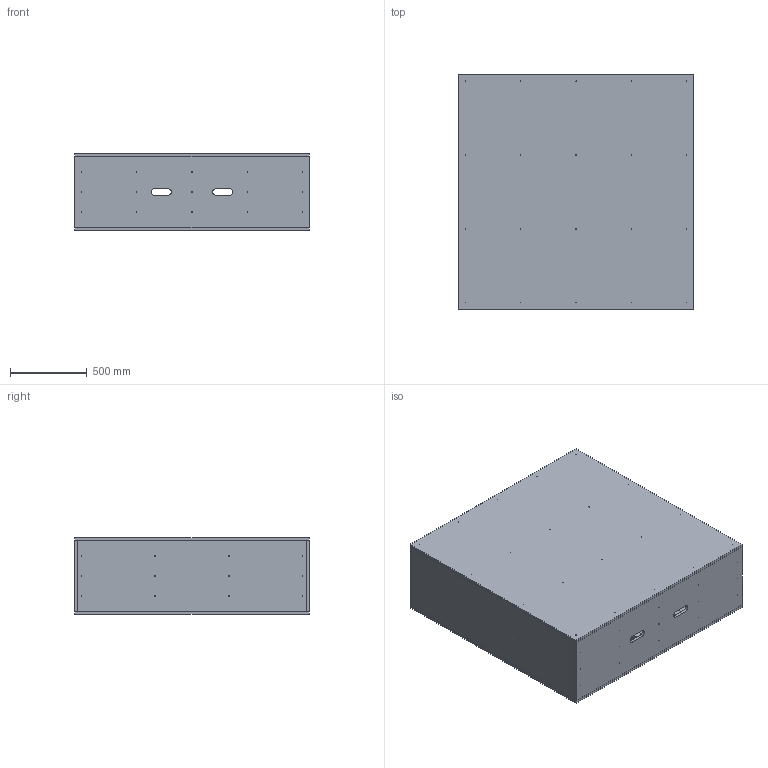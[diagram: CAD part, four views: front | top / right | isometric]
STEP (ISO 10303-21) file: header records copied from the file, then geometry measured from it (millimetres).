
FILE_DESCRIPTION(('Open CASCADE Model'),'2;1');
FILE_NAME('Open CASCADE Shape Model','2026-09-28T10:14:14',('Author'),( 'Open CASCADE'),'Open CASCADE STEP processor 7.9','Open CASCADE 7.9' ,'Unknown');
FILE_SCHEMA(('AUTOMOTIVE_DESIGN { 1 0 10303 214 1 1 1 1 }'));
Length unit declared in the file: millimetre
Products named in the file (45): box_500x1525x1525; bottom; top; front; back; end_left; end_right; post_0_0; post_0_1; post_0_2; post_0_3; post_1_0; post_1_1; post_1_2; post_1_3; post_2_0; post_2_1; post_2_2; post_2_3; post_3_0; post_3_1; post_3_2; post_3_3; post_4_0; post_4_1; post_4_2; post_4_3; cross_0_0; cross_0_1; cross_0_2; cross_0_3; cross_0_4; longitudinal_0_0; longitudinal_0_1; longitudinal_0_2; longitudinal_0_3; cross_1_0; cross_1_1; cross_1_2; cross_1_3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
Assembly tree (44 placements, depth 2):
  box_500x1525x1525
    bottom
    top
    front
    back
    end_left
    end_right
    post_0_0
    post_0_1
    post_0_2
    post_0_3
    post_1_0
    post_1_1
    post_1_2
    post_1_3
    post_2_0
    post_2_1
    post_2_2
    post_2_3
    post_3_0
    post_3_1
    post_3_2
    post_3_3
    post_4_0
    post_4_1
    post_4_2
    post_4_3
    cross_0_0
    cross_0_1
    cross_0_2
    cross_0_3
    cross_0_4
    longitudinal_0_0
    longitudinal_0_1
    longitudinal_0_2
    longitudinal_0_3
    cross_1_0
    cross_1_1
    cross_1_2
    cross_1_3
    cross_1_4
    longitudinal_1_0
    longitudinal_1_1
    longitudinal_1_2
    longitudinal_1_3
Bounding box: 1525 x 1525 x 500 mm (x, y, z)
Volume: 218875139.4 mm3; surface area: 22397769.4 mm2
Topology: 44 solids, 44 shells, 374 faces, 858 edges, 572 vertices
Faces by surface type: plane 272, cylinder 102
Full cylindrical faces by diameter (mm): 2.5 x94
Entity records: 23110 total; most frequent: CARTESIAN_POINT 3597, DIRECTION 3584, LINE 2134, VECTOR 2134, ORIENTED_EDGE 1716, PCURVE 1716, DEFINITIONAL_REPRESENTATION 1716, EDGE_CURVE 858
